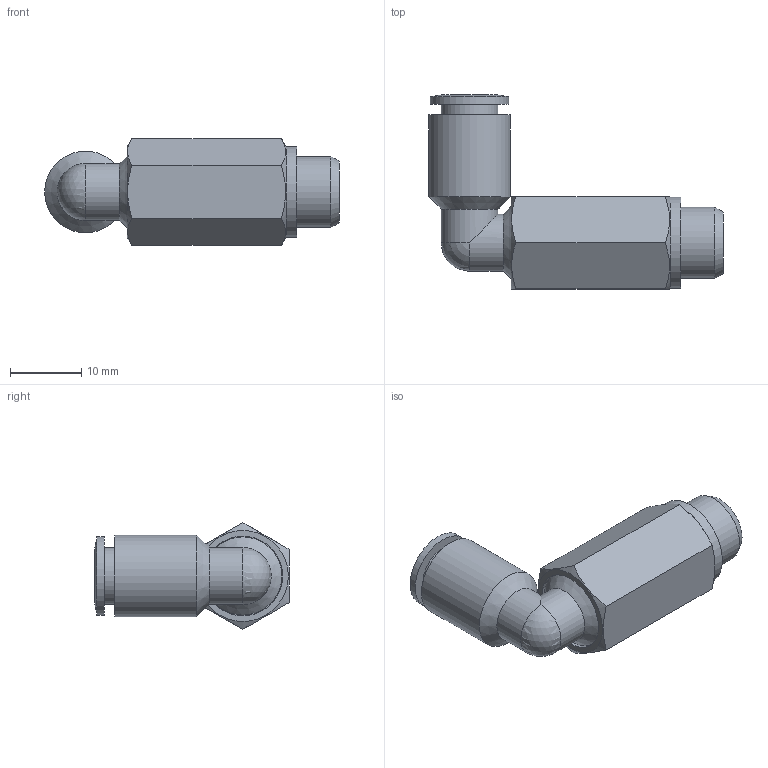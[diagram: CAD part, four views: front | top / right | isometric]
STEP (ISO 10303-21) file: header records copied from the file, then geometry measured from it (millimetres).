
FILE_DESCRIPTION((''),'2;1');
FILE_NAME('C:\Documents and Settings\rivolro1\Documenti\copia di Raccordi\PLASTICA\T22LXXXX\T22L0618.stp','2007-11-02T14:17:35',('Rivolro1'),(''),'Autodesk Inventor 2008','Autodesk Inventor 2008','');
FILE_SCHEMA(('AUTOMOTIVE_DESIGN { 1 0 10303 214 1 1 1 1 }'));
Length unit declared in the file: millimetre
Products named in the file (1): T22L0618
Bounding box: 41.45 x 27.3 x 15.01 mm (x, y, z)
Volume: 5033.3 mm3; surface area: 3323.8 mm2
Topology: 1 solids, 1 shells, 37 faces, 84 edges, 51 vertices
Faces by surface type: plane 14, cylinder 12, cone 6, bspline 4, sphere 1
Full cylindrical faces by diameter (mm): 3.8 x1, 4.2 x1, 8 x3, 10 x1, 11 x2, 11.2 x1, 11.5 x1, 12.8 x1
Entity records: 1060 total; most frequent: CARTESIAN_POINT 301, DIRECTION 142, ORIENTED_EDGE 112, AXIS2_PLACEMENT_3D 66, EDGE_LOOP 63, EDGE_CURVE 56, VERTEX_POINT 45, FACE_OUTER_BOUND 37
